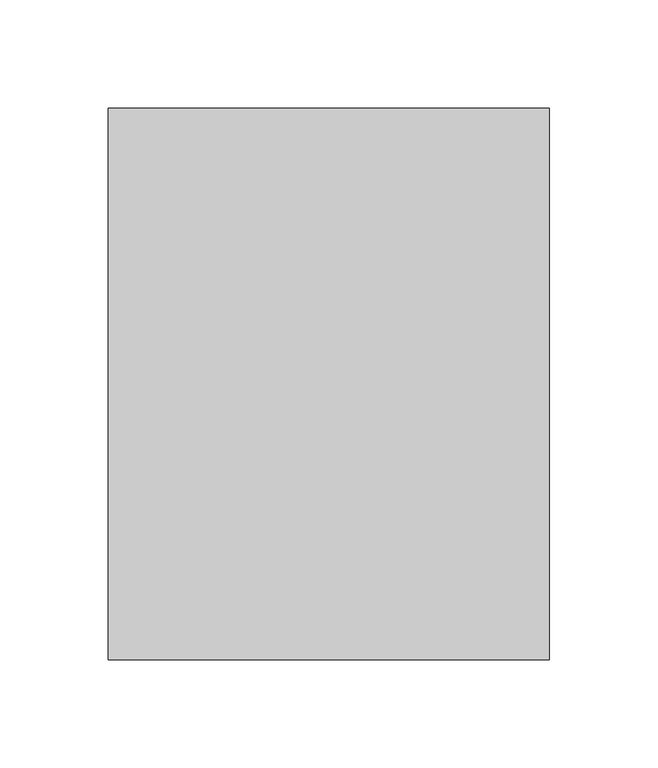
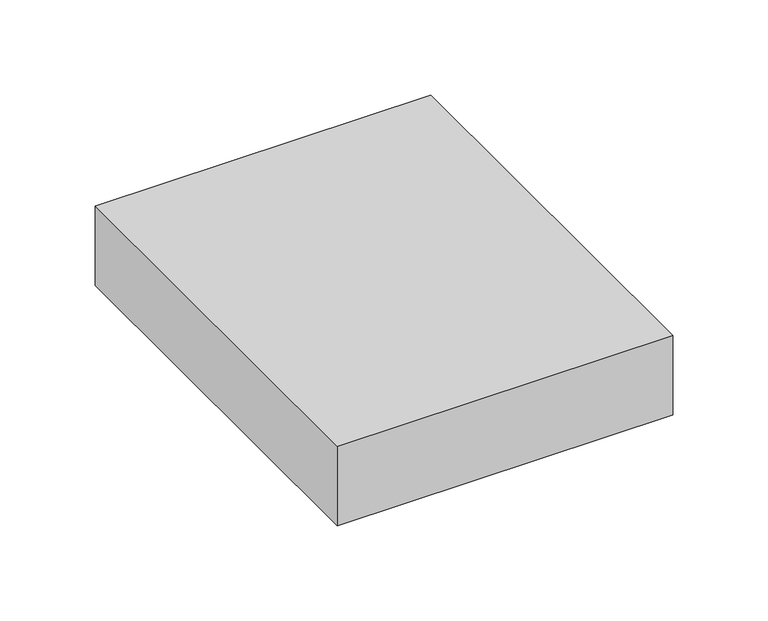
"""IFC4 building model written with IfcOpenShell, lengths in millimetres: proxy geometry, Wall  Protrusion : Wall  Protrusion."""

from ifc_helpers import new_model, si_unit, origin, origin_with_axes, place, context, project, spatial, polyline, outline, extrude, source, transform, mapped, element, save


def generic_models_a077fc04(model_context):
    return source(origin(), model_context, "Body", "SweptSolid", [
        extrude(outline(polyline([(101.6, 127.0), (101.6, -127.0), (-101.6, -127.0), (-101.6, 127.0), (101.6, 127.0)])), origin_with_axes(), (0.0, 0.0, 1.0), 50.8),
    ])


if __name__ == "__main__":
    model = new_model("IFC4")
    model_context = context("Model", 3, world=origin())
    ifc_project = project(units=[si_unit("LENGTHUNIT", "METRE", prefix="MILLI")], contexts=[model_context])
    site = spatial("IfcSite", under=ifc_project)
    building = spatial("IfcBuilding", under=site)
    placement = place(None, origin())
    generic_models_shape = generic_models_a077fc04(model_context)
    element("IfcBuildingElementProxy", 1, Name="Wall  Protrusion : Wall  Protrusion", ObjectType="Wall  Protrusion : Wall  Protrusion", at=placement, inside=building, context=model_context, shape_type="MappedRepresentation", body=[
        mapped(generic_models_shape, transform((0.0, 0.0, 0.0), x_axis=(1.0, 0.0, 0.0), y_axis=(0.0, 1.0, 0.0), z_axis=(0.0, 0.0, 1.0))),
    ])
    save(model, "model.ifc")
